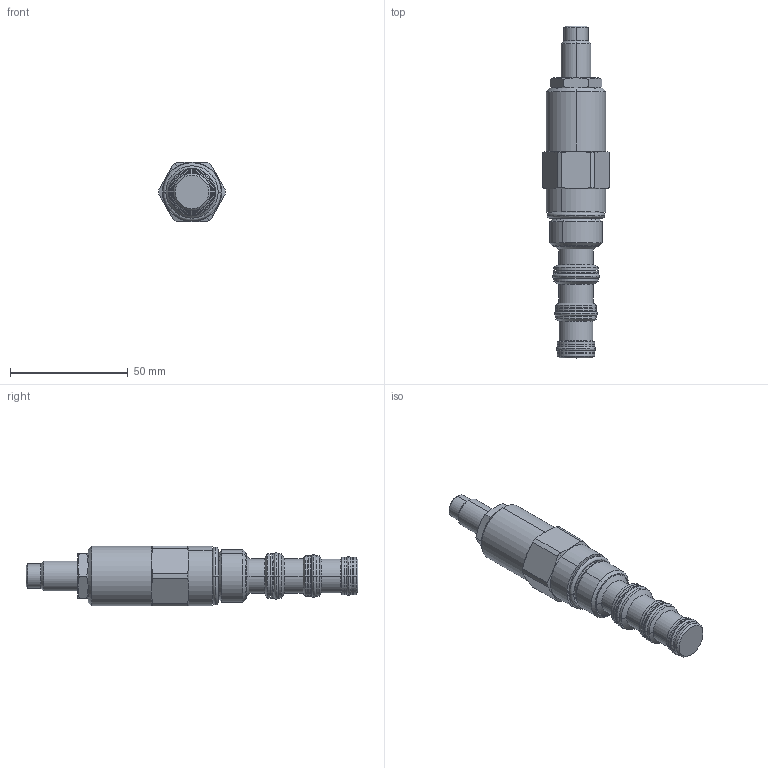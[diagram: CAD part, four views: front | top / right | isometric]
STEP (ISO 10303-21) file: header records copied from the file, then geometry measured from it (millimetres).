
FILE_DESCRIPTION((''),'2;1');
FILE_NAME('PRT0008','2009-03-24T',('JCS'),(''),'PRO/ENGINEER BY PARAMETRIC TECHNOLOGY CORPORATION, 2008510','PRO/ENGINEER BY PARAMETRIC TECHNOLOGY CORPORATION, 2008510','');
FILE_SCHEMA(('CONFIG_CONTROL_DESIGN'));
Length unit declared in the file: inch
Products named in the file (1): PRT0008
Bounding box: 28.19 x 140.88 x 25.4 mm (x, y, z)
Volume: 45592.9 mm3; surface area: 12741.1 mm2
Topology: 5 solids, 5 shells, 228 faces, 494 edges, 287 vertices
Faces by surface type: cylinder 66, cone 50, plane 46, torus 34, revolution 32
Entity records: 7050 total; most frequent: CARTESIAN_POINT 2021, DIRECTION 1098, ORIENTED_EDGE 984, EDGE_CURVE 492, AXIS2_PLACEMENT_3D 464, VERTEX_POINT 287, CIRCLE 268, EDGE_LOOP 249
